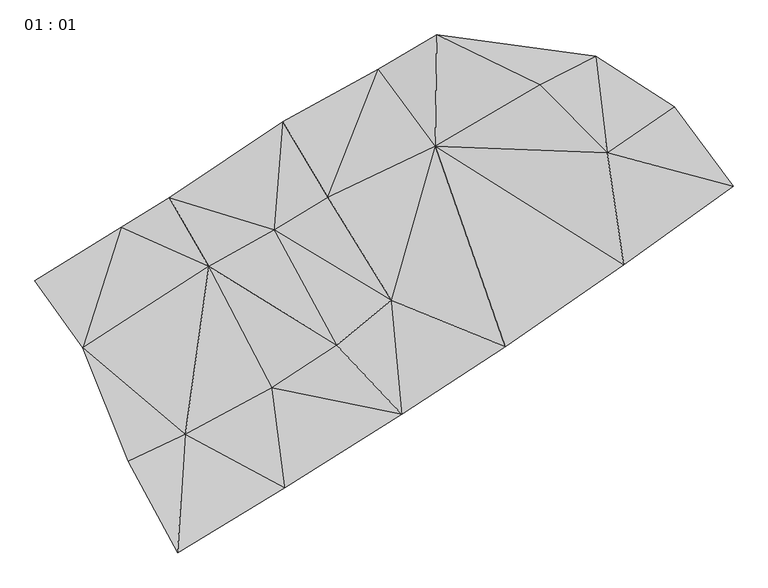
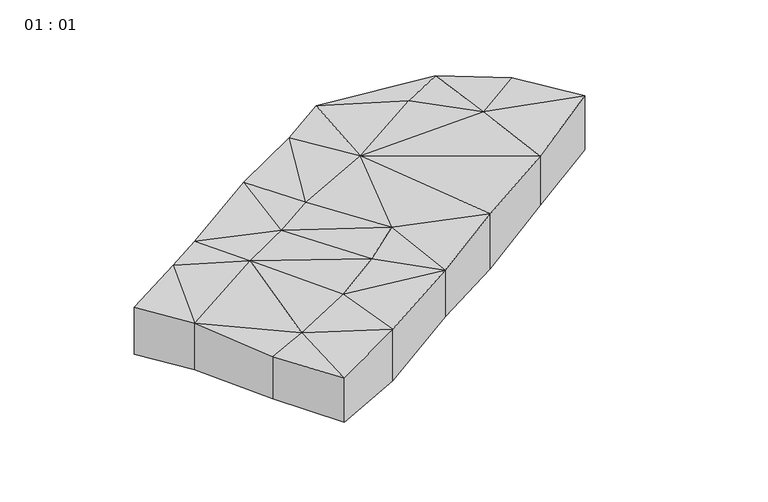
"""IFC4 building model written with IfcOpenShell, lengths in millimetres: proxy geometry, 01 : 01."""

from ifc_helpers import new_model, si_unit, origin, place, context, project, spatial, faceted_brep, source, transform, mapped, element, save


def proxy_01_01_e80e8e62(model_context):
    return source(origin(), model_context, "Body", "Brep", [
        faceted_brep([(154708.2, 143430.0000004, 5450.0000001), (175415.7000004, 122621.0000003, 122.0000002), (122674.7000002, 124651.9999998, 1750.0000001), (109246.9000002, 77446.0000001, 2230.0000001), (89776.2999999, 109001.0000007, 7930.0000001), (73370.7000002, 99048.0, 6690.0000001), (92535.7000001, 63691.9999999, 9610.0000001), (53257.1999999, 87840.0000004, 3280.0), (72638.0000002, 50627.0, 6720.0000001), (46060.6000002, 36347.9999998, 3710.0000001), (76004.4000002, 132169.0000007, 1510.0), (41179.9000001, 108890.0000004, 0.0), (26508.4000002, 99796.9999997, 1820.0000001), (14635.4000001, 62941.9999998, 1590.0000001), (1e-07, 83485.9999999, 1500.0000001), (28569.7000002, 28094.0000001, 4490.0000001), (43823.3000002, 0.0, 5340.0000001), (175415.7000001, 122620.9999999, 28450.0000001), (154708.2, 143430.0000005, 28250.0000001), (122674.7000002, 124651.9999998, 25350.0000001), (109246.9000001, 77446.0, 25630.0000001), (89776.3000002, 109001.0000002, 24830.0000001), (76004.4000002, 132169.0000003, 25010.0000001), (73370.7000002, 99048.0, 23690.0000001), (92535.7, 63692.0000001, 25310.0000001), (41179.9, 108890.0000005, 24000.0000001), (43823.3000001, 0.0, 25540.0000001), (28569.7000001, 28094.0000001, 23990.0000001), (46060.6000001, 36347.9999992, 23810.0000001), (123220.0000002, 158776.9999998, 3270.0000001), (105193.8000002, 148285.0000002, 4970.0000001), (105193.8000002, 148285.0000002, 25470.0000001), (123220.0000002, 158776.9999998, 27670.0000001), (171825.7000001, 152291.9999994, 6380.0000001), (171825.7000001, 152291.9999994, 28480.0000001), (195922.7000003, 136696.0000003, 6910.0000001), (195922.7000003, 136696.0000002, 28510.0000001), (213997.9000001, 112464.9999999, 3680.0), (213997.9000001, 112464.9999999, 28680.0000001), (180474.7000001, 88274.0000003, 4370.0000001), (180474.7000001, 88274.0000003, 27070.0000001), (144182.7000001, 63139.0, 2790.0000001), (144182.7000001, 63139.0, 28290.0000001), (112500.0000002, 42504.0000002, 4270.0000001), (112500.0000002, 42504.0000002, 25870.0000001), (76585.3000002, 19975.9999999, 800.0000001), (76585.3000002, 19975.9999999, 24800.0000001), (72638.0000003, 50627.0, 23820.0000001), (53257.2000002, 87839.9999998, 23480.0000001), (14635.4000003, 62942.0, 23190.0000001), (-1e-07, 83486.0, 23300.0000001), (26508.4000002, 99796.9999999, 23420.0000001)], [[[0, 1, 2]], [[2, 3, 4]], [[4, 3, 5]], [[5, 3, 6]], [[7, 8, 9]], [[7, 6, 8]], [[5, 6, 7]], [[5, 10, 4]], [[11, 10, 5]], [[7, 11, 5]], [[12, 11, 7]], [[7, 9, 13]], [[13, 12, 7]], [[14, 12, 13]], [[13, 9, 15]], [[9, 16, 15]], [[17, 18, 19]], [[20, 19, 21]], [[22, 23, 21]], [[20, 23, 24]], [[20, 21, 23]], [[10, 11, 25, 22]], [[22, 25, 23]], [[15, 16, 26, 27]], [[26, 28, 27]], [[29, 30, 31, 32]], [[29, 2, 30]], [[30, 10, 22, 31]], [[29, 0, 2]], [[33, 29, 32, 34]], [[29, 33, 0]], [[30, 2, 4]], [[10, 30, 4]], [[19, 31, 21]], [[19, 32, 31]], [[31, 22, 21]], [[18, 32, 19]], [[34, 32, 18]], [[33, 1, 0]], [[35, 33, 34, 36]], [[33, 35, 1]], [[17, 34, 18]], [[36, 34, 17]], [[35, 37, 1]], [[37, 35, 36, 38]], [[38, 36, 17]], [[1, 37, 39]], [[39, 37, 38, 40]], [[38, 17, 40]], [[1, 39, 2]], [[41, 39, 40, 42]], [[2, 39, 41]], [[40, 17, 19]], [[40, 19, 42]], [[3, 41, 43]], [[2, 41, 3]], [[43, 41, 42, 44]], [[42, 19, 20]], [[42, 20, 44]], [[3, 43, 6]], [[6, 43, 8]], [[8, 43, 45]], [[45, 43, 44, 46]], [[44, 24, 47]], [[44, 47, 46]], [[44, 20, 24]], [[8, 45, 9]], [[9, 45, 16]], [[16, 45, 46, 26]], [[46, 47, 28]], [[46, 28, 26]], [[47, 48, 28]], [[25, 48, 23]], [[24, 23, 48]], [[24, 48, 47]], [[28, 49, 27]], [[13, 15, 27, 49]], [[14, 13, 49, 50]], [[51, 50, 49]], [[12, 14, 50, 51]], [[28, 48, 49]], [[11, 12, 51, 25]], [[25, 51, 48]], [[51, 49, 48]]]),
    ])


if __name__ == "__main__":
    model = new_model("IFC4")
    model_context = context("Model", 3, world=origin())
    ifc_project = project(units=[si_unit("LENGTHUNIT", "METRE", prefix="MILLI")], contexts=[model_context])
    site = spatial("IfcSite", under=ifc_project)
    building = spatial("IfcBuilding", under=site)
    placement = place(None, origin())
    proxy_01_01_shape = proxy_01_01_e80e8e62(model_context)
    element("IfcBuildingElementProxy", 1, Name="01 : 01", ObjectType="01 : 01", at=placement, inside=building, context=model_context, shape_type="MappedRepresentation", body=[
        mapped(proxy_01_01_shape, transform((0.0, 0.0, 0.0), x_axis=(1.0, 0.0, 0.0), y_axis=(0.0, 1.0, 0.0), z_axis=(0.0, 0.0, 1.0))),
    ])
    save(model, "model.ifc")
